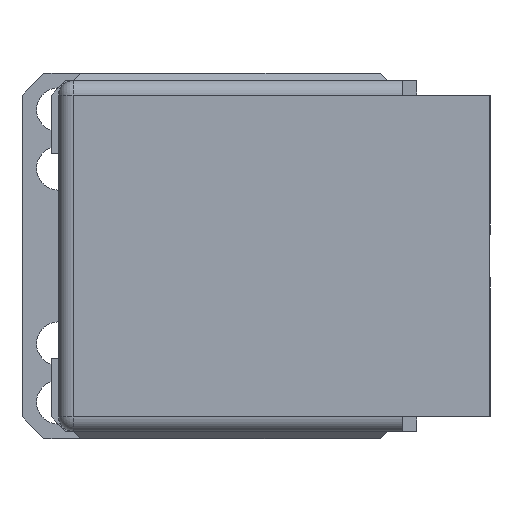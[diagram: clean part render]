
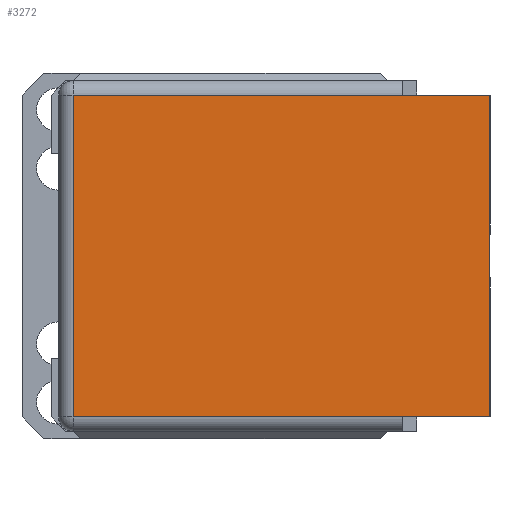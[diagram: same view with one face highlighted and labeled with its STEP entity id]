
A CAD part, left-side view. The second image highlights one B-rep face of the part: STEP entity #3272.
In plain terms, the highlighted planar face has unit normal (-1, 0, 0).
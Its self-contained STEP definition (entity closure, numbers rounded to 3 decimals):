
#35 = ORIENTED_EDGE ( 'NONE', *, *, #3851, .T. ) ;
#94 = VERTEX_POINT ( 'NONE', #2238 ) ;
#222 = VECTOR ( 'NONE', #4773, 1000. ) ;
#336 = EDGE_CURVE ( 'NONE', #887, #1279, #642, .T. ) ;
#415 = ORIENTED_EDGE ( 'NONE', *, *, #1326, .F. ) ;
#420 = VECTOR ( 'NONE', #3740, 1000. ) ;
#483 = EDGE_CURVE ( 'NONE', #3147, #1344, #4100, .T. ) ;
#494 = VERTEX_POINT ( 'NONE', #2076 ) ;
#587 = EDGE_CURVE ( 'NONE', #1279, #494, #1503, .T. ) ;
#613 = CARTESIAN_POINT ( 'NONE',  ( 0., 0., -11. ) ) ;
#642 = LINE ( 'NONE', #3958, #4741 ) ;
#811 = FACE_OUTER_BOUND ( 'NONE', #2107, .T. ) ;
#887 = VERTEX_POINT ( 'NONE', #4731 ) ;
#945 = VECTOR ( 'NONE', #2951, 1000. ) ;
#1271 = LINE ( 'NONE', #1979, #222 ) ;
#1279 = VERTEX_POINT ( 'NONE', #613 ) ;
#1326 = EDGE_CURVE ( 'NONE', #3147, #494, #1558, .T. ) ;
#1344 = VERTEX_POINT ( 'NONE', #4223 ) ;
#1356 = CARTESIAN_POINT ( 'NONE',  ( 0., 28.5, 11. ) ) ;
#1503 = LINE ( 'NONE', #3706, #3474 ) ;
#1558 = LINE ( 'NONE', #4622, #3657 ) ;
#1979 = CARTESIAN_POINT ( 'NONE',  ( 0., 6., -11. ) ) ;
#2076 = CARTESIAN_POINT ( 'NONE',  ( 0., 0., 11. ) ) ;
#2107 = EDGE_LOOP ( 'NONE', ( #35, #2677, #2593, #2744, #415, #2566 ) ) ;
#2238 = CARTESIAN_POINT ( 'NONE',  ( 0., 28.5, -11. ) ) ;
#2566 = ORIENTED_EDGE ( 'NONE', *, *, #483, .T. ) ;
#2593 = ORIENTED_EDGE ( 'NONE', *, *, #336, .T. ) ;
#2628 = DIRECTION ( 'NONE',  ( 0., -1., 0. ) ) ;
#2646 = LINE ( 'NONE', #1356, #420 ) ;
#2677 = ORIENTED_EDGE ( 'NONE', *, *, #4501, .T. ) ;
#2744 = ORIENTED_EDGE ( 'NONE', *, *, #587, .T. ) ;
#2755 = DIRECTION ( 'NONE',  ( 0., 0., -1. ) ) ;
#2916 = AXIS2_PLACEMENT_3D ( 'NONE', #4333, #5155, #2755 ) ;
#2951 = DIRECTION ( 'NONE',  ( 0., 1., 0. ) ) ;
#3112 = PLANE ( 'NONE',  #2916 ) ;
#3147 = VERTEX_POINT ( 'NONE', #5055 ) ;
#3238 = CARTESIAN_POINT ( 'NONE',  ( 0., 6., 11. ) ) ;
#3272 = ADVANCED_FACE ( 'NONE', ( #811 ), #3112, .F. ) ;
#3474 = VECTOR ( 'NONE', #3807, 1000. ) ;
#3544 = DIRECTION ( 'NONE',  ( 0., -1., 0. ) ) ;
#3657 = VECTOR ( 'NONE', #2628, 1000. ) ;
#3706 = CARTESIAN_POINT ( 'NONE',  ( 0., 0., 11. ) ) ;
#3740 = DIRECTION ( 'NONE',  ( 0., 0., -1. ) ) ;
#3807 = DIRECTION ( 'NONE',  ( 0., 0., 1. ) ) ;
#3851 = EDGE_CURVE ( 'NONE', #1344, #94, #2646, .T. ) ;
#3958 = CARTESIAN_POINT ( 'NONE',  ( 0., 6., -11. ) ) ;
#4100 = LINE ( 'NONE', #3238, #945 ) ;
#4223 = CARTESIAN_POINT ( 'NONE',  ( 0., 28.5, 11. ) ) ;
#4333 = CARTESIAN_POINT ( 'NONE',  ( 0., 6., 11. ) ) ;
#4501 = EDGE_CURVE ( 'NONE', #94, #887, #1271, .T. ) ;
#4622 = CARTESIAN_POINT ( 'NONE',  ( 0., 6., 11. ) ) ;
#4731 = CARTESIAN_POINT ( 'NONE',  ( 0., 6., -11. ) ) ;
#4741 = VECTOR ( 'NONE', #3544, 1000. ) ;
#4773 = DIRECTION ( 'NONE',  ( 0., -1., 0. ) ) ;
#5055 = CARTESIAN_POINT ( 'NONE',  ( 0., 6., 11. ) ) ;
#5155 = DIRECTION ( 'NONE',  ( 1., 0., 0. ) ) ;
